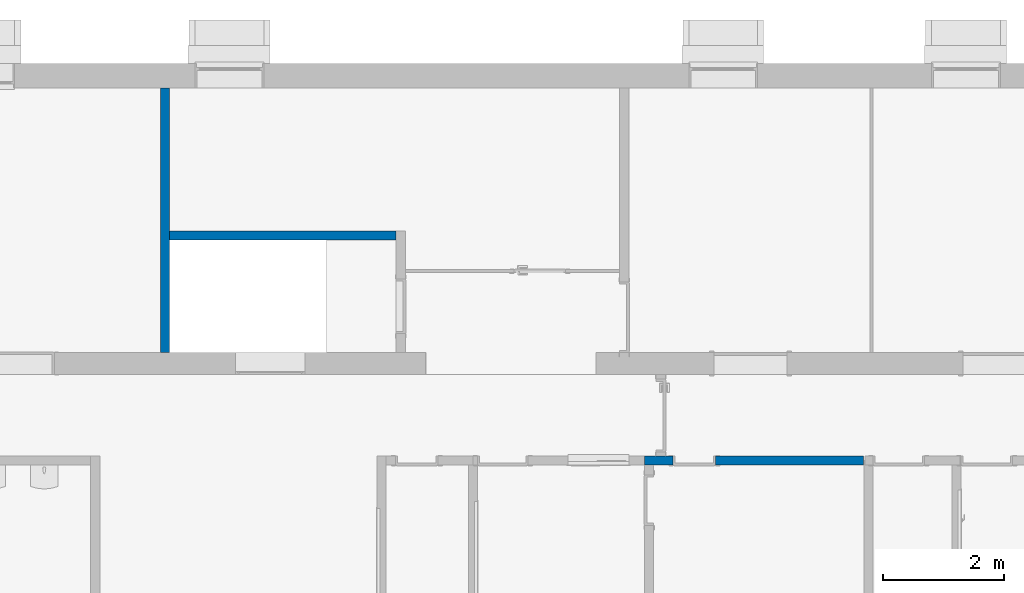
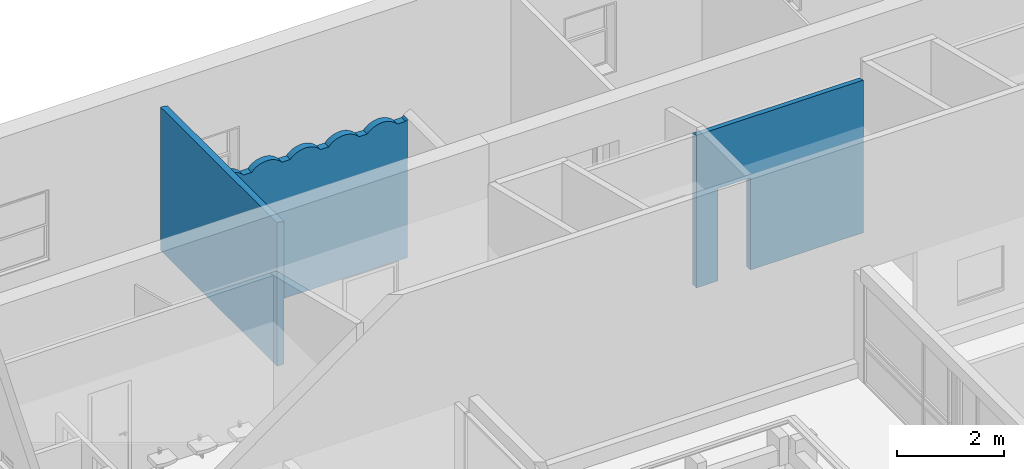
# One storey, part 141 of 153: 3 walls, 1 opening.
"""IFC4 building model written with IfcOpenShell, lengths in metres."""

import ifcopenshell
import ifcopenshell.guid

model = None  # the IFC model being written
_history = None  # IfcOwnerHistory: only IFC2X3 demands one
_inside = {}  # id of a spatial element -> (the spatial element, [elements in it])
_under = {}  # id of a project, library or spatial element -> (it, [spatial elements below it])
_declared = {}  # id of a project -> (the project, [libraries it declares])
_typed = {}  # id of a type object -> (the type object, [elements of that type])
_made_of = {}  # id of a material, layer set ... -> (it, [elements and type objects made of it])


def new_model(schema):
    """Start an empty IFC model of exactly this schema.

    Asked for "IFC4X3", IfcOpenShell would pick the latest addendum, in which some entities
    have other attributes; the version numbers below select the first issue.
    IFC2X3 requires an IfcOwnerHistory on every rooted entity: one is made here for all.
    """
    global model, _history
    if schema == "IFC4X3":
        model = ifcopenshell.file(schema_version=(4, 3, 0, 0))
    else:
        model = ifcopenshell.file(schema=schema)
    _inside.clear()
    _under.clear()
    _declared.clear()
    _typed.clear()
    _made_of.clear()
    _history = None
    if model.schema == "IFC2X3":
        org = make("IfcOrganization", Name="unknown")
        user = make(
            "IfcPersonAndOrganization",
            ThePerson=make("IfcPerson", FamilyName="unknown"),
            TheOrganization=org,
        )
        app = make(
            "IfcApplication",
            ApplicationDeveloper=org,
            Version="unknown",
            ApplicationFullName="unknown",
            ApplicationIdentifier="unknown",
        )
        _history = make(
            "IfcOwnerHistory",
            OwningUser=user,
            OwningApplication=app,
            ChangeAction="ADDED",
            CreationDate=0,
        )
    return model


def make(cls, **values):
    """One entity of the class cls with the attributes given. An attribute that is None is left unset."""
    return model.create_entity(
        cls, **{name: value for name, value in values.items() if value is not None}
    )


def entity(cls, *values):
    """Any entity or typed value of the class cls, its attributes in the order of the schema. None: left unset."""
    e = model.create_entity(cls)
    for i, value in enumerate(values):
        if value is not None:
            e[i] = value
    return e


def rooted(cls, **values):
    """An entity with a GlobalId (a new one), such as an element, a storey or a relation."""
    return make(cls, GlobalId=ifcopenshell.guid.new(), OwnerHistory=_history, **values)


def si_unit(unit_type, name, prefix=None):
    """IfcSIUnit, for example si_unit("LENGTHUNIT", "METRE", prefix="MILLI")."""
    return make("IfcSIUnit", UnitType=unit_type, Prefix=prefix, Name=name)


def converted_unit(unit_type, name, factor, base, dimensions=None, offset=None):
    """IfcConversionBasedUnit, such as the inch: factor (a typed value) times the base unit."""
    return make(
        "IfcConversionBasedUnit"
        if offset is None
        else "IfcConversionBasedUnitWithOffset",
        ConversionOffset=offset,
        Dimensions=None
        if dimensions is None
        else entity("IfcDimensionalExponents", *dimensions),
        UnitType=unit_type,
        Name=name,
        ConversionFactor=make(
            "IfcMeasureWithUnit", ValueComponent=factor, UnitComponent=base
        ),
    )


def derived_unit(unit_type, elements):
    """IfcDerivedUnit: a product of units, each with its exponent."""
    return make(
        "IfcDerivedUnit",
        Elements=[
            make("IfcDerivedUnitElement", Unit=unit, Exponent=power)
            for unit, power in elements
        ],
        UnitType=unit_type,
    )


def assignment(units):
    """IfcUnitAssignment: the units of a project."""
    return None if units is None else make("IfcUnitAssignment", Units=units)


def point(xyz):
    """IfcCartesianPoint."""
    return None if xyz is None else make("IfcCartesianPoint", Coordinates=xyz)


def direction(xyz):
    """IfcDirection."""
    return None if xyz is None else make("IfcDirection", DirectionRatios=xyz)


def frame(location, z_axis=None, x_axis=None):
    """IfcAxis2Placement3D, a coordinate frame: its origin and axes. An axis left out is left unset."""
    return make(
        "IfcAxis2Placement3D",
        Location=point(location),
        Axis=direction(z_axis),
        RefDirection=direction(x_axis),
    )


def origin():
    """The frame at (0, 0, 0) with its axes left unset."""
    return frame((0.0, 0.0, 0.0))


def place(relative_to, where):
    """IfcLocalPlacement: puts the frame where relative to a parent placement (None: the world)."""
    return make(
        "IfcLocalPlacement", PlacementRelTo=relative_to, RelativePlacement=where
    )


def context(
    kind, dimensions, precision=None, world=None, true_north=None, identifier=None
):
    """IfcGeometricRepresentationContext, for example the 3D "Model" context."""
    return make(
        "IfcGeometricRepresentationContext",
        ContextIdentifier=identifier,
        ContextType=kind,
        CoordinateSpaceDimension=dimensions,
        Precision=precision,
        WorldCoordinateSystem=world,
        TrueNorth=true_north,
    )


def subcontext(parent, identifier, kind, view, scale=None):
    """IfcGeometricRepresentationSubContext, for example "Body" below "Model"."""
    return make(
        "IfcGeometricRepresentationSubContext",
        ContextIdentifier=identifier,
        ContextType=kind,
        ParentContext=parent,
        TargetScale=scale,
        TargetView=view,
    )


def project(units=None, contexts=None):
    """IfcProject with its units and contexts."""
    return rooted(
        "IfcProject",
        Name="project",
        RepresentationContexts=contexts,
        UnitsInContext=assignment(units),
    )


def spatial(cls, under=None, at=None, **own):
    """A site, building, storey or space (cls), placed at a placement, below another one or the project."""
    s = rooted(cls, ObjectPlacement=at, **own)
    if under is not None:
        _under.setdefault(under.id(), (under, []))[1].append(s)
    return s


def point_list(points):
    """IfcCartesianPointList2D or 3D."""
    cls = (
        "IfcCartesianPointList2D" if len(points[0]) == 2 else "IfcCartesianPointList3D"
    )
    return make(cls, CoordList=points)


def indexed_curve(points, segments=None, self_intersect=None):
    """IfcIndexedPolyCurve: lines and arcs through numbered points (the first is 1)."""
    return make(
        "IfcIndexedPolyCurve",
        Points=point_list(points),
        Segments=segments,
        SelfIntersect=self_intersect,
    )


def outline(outer, holes=None, kind="AREA"):
    """IfcArbitraryClosedProfileDef: a profile drawn as a closed curve; with holes, ...WithVoids."""
    if holes is None:
        return make("IfcArbitraryClosedProfileDef", ProfileType=kind, OuterCurve=outer)
    return make(
        "IfcArbitraryProfileDefWithVoids",
        ProfileType=kind,
        OuterCurve=outer,
        InnerCurves=holes,
    )


def extrude(swept, where, along, depth):
    """IfcExtrudedAreaSolid: the profile swept, set in the frame where, extruded along a direction by depth."""
    return make(
        "IfcExtrudedAreaSolid",
        SweptArea=swept,
        Position=where,
        ExtrudedDirection=direction(along),
        Depth=depth,
    )


def polygons(points, faces, closed=None, point_numbers=None):
    """IfcPolygonalFaceSet: a face is its outer loop, then its inner loops; points numbered from 1."""
    made = []
    for loops in faces:
        if len(loops) == 1:
            made.append(make("IfcIndexedPolygonalFace", CoordIndex=loops[0]))
        else:
            made.append(
                make(
                    "IfcIndexedPolygonalFaceWithVoids",
                    CoordIndex=loops[0],
                    InnerCoordIndices=loops[1:],
                )
            )
    return make(
        "IfcPolygonalFaceSet",
        Coordinates=point_list(points),
        Closed=closed,
        Faces=made,
        PnIndex=point_numbers,
    )


def shape(context_of_items, identifier, shape_type, items):
    """IfcShapeRepresentation: the items that make up one representation, for example the "Body"."""
    return make(
        "IfcShapeRepresentation",
        ContextOfItems=context_of_items,
        RepresentationIdentifier=identifier,
        RepresentationType=shape_type,
        Items=items,
    )


def material(Name=None, Category=None):
    """IfcMaterial."""
    return make("IfcMaterial", Name=Name, Category=Category)


def made_of(thing, what):
    """Note that an element or type object is made of a material, layer set ...; save() writes the relation."""
    if what is not None:
        _made_of.setdefault(what.id(), (what, []))[1].append(thing)
    return thing


def type_object(cls, material=None, **own):
    """A type object (cls), such as IfcWallType, which elements share."""
    return made_of(rooted(cls, **own), material)


def element(
    cls,
    number,
    at=None,
    inside=None,
    cuts=None,
    type_object=None,
    material=None,
    context=None,
    identifier="Body",
    shape_type=None,
    held_by="IfcProductDefinitionShape",
    body=None,
    shapes=None,
    **own,
):
    """One element of the class cls, such as IfcWall. Its Tag is "e" and its number.

    at: its placement. inside: the storey or other place that contains it. cuts: it is an
    opening in that element (IfcRelVoidsElement). A single representation is given by context,
    identifier, shape_type and body (its items); several are given by shapes. held_by: the class
    of the entity that holds the representations. save() writes the other relations.
    """
    e = rooted(cls, Tag="e%d" % number, ObjectPlacement=at, **own)
    if body is not None:
        shapes = [shape(context, identifier, shape_type, body)]
    if shapes is not None:
        e.Representation = make(held_by, Representations=shapes)
    if inside is not None:
        _inside.setdefault(inside.id(), (inside, []))[1].append(e)
    if cuts is not None:
        rooted(
            "IfcRelVoidsElement", RelatingBuildingElement=cuts, RelatedOpeningElement=e
        )
    if type_object is not None:
        _typed.setdefault(type_object.id(), (type_object, []))[1].append(e)
    return made_of(e, material)


def aggregate(whole, parts):
    """IfcRelAggregates: a whole, such as a stair, and the parts it consists of."""
    return rooted("IfcRelAggregates", RelatingObject=whole, RelatedObjects=parts)


def save(model, path):
    """Write the relations noted so far, then the file.

    IfcRelAggregates (storeys below a building ...), IfcRelContainedInSpatialStructure (elements
    in a storey), IfcRelDefinesByType, IfcRelAssociatesMaterial and IfcRelDeclares: one each for
    every whole, place, type object, material and project.
    """
    for whole, parts in _under.values():
        aggregate(whole, parts)
    for where, things in _inside.values():
        rooted(
            "IfcRelContainedInSpatialStructure",
            RelatedElements=things,
            RelatingStructure=where,
        )
    for kind, things in _typed.values():
        rooted("IfcRelDefinesByType", RelatedObjects=things, RelatingType=kind)
    for what, things in _made_of.values():
        rooted("IfcRelAssociatesMaterial", RelatedObjects=things, RelatingMaterial=what)
    for by, libraries in _declared.values():
        rooted("IfcRelDeclares", RelatingContext=by, RelatedDefinitions=libraries)
    model.write(path)


model = new_model("IFC4")

# Units and contexts
model_context = context("Model", 3, precision=1e-05, world=origin(), true_north=direction((6.123031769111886e-17, 1.0)))
body_context = subcontext(model_context, "Body", "Model", "MODEL_VIEW")
ifc_project = project(units=[si_unit("LENGTHUNIT", "METRE"), si_unit("AREAUNIT", "SQUARE_METRE"), si_unit("VOLUMEUNIT", "CUBIC_METRE"), converted_unit("PLANEANGLEUNIT", "DEGREE", entity("IfcRatioMeasure", 0.017453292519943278), si_unit("PLANEANGLEUNIT", "RADIAN"), dimensions=[0, 0, 0, 0, 0, 0, 0]), si_unit("MASSUNIT", "GRAM", prefix="KILO"), derived_unit("MASSDENSITYUNIT", [(si_unit("MASSUNIT", "GRAM", prefix="KILO"), 1), (si_unit("LENGTHUNIT", "METRE"), -3)]), derived_unit("MOMENTOFINERTIAUNIT", [(si_unit("LENGTHUNIT", "METRE"), 4)]), si_unit("TIMEUNIT", "SECOND"), si_unit("FREQUENCYUNIT", "HERTZ"), si_unit("THERMODYNAMICTEMPERATUREUNIT", "DEGREE_CELSIUS"), derived_unit("THERMALTRANSMITTANCEUNIT", [(si_unit("MASSUNIT", "GRAM", prefix="KILO"), 1), (si_unit("THERMODYNAMICTEMPERATUREUNIT", "KELVIN"), -1), (si_unit("TIMEUNIT", "SECOND"), -3)]), derived_unit("VOLUMETRICFLOWRATEUNIT", [(si_unit("LENGTHUNIT", "METRE"), 3), (si_unit("TIMEUNIT", "SECOND"), -1)]), derived_unit("MASSFLOWRATEUNIT", [(si_unit("MASSUNIT", "GRAM", prefix="KILO"), 1), (si_unit("TIMEUNIT", "SECOND"), -1)]), derived_unit("ROTATIONALFREQUENCYUNIT", [(si_unit("TIMEUNIT", "SECOND"), -1)]), si_unit("ELECTRICCURRENTUNIT", "AMPERE"), si_unit("ELECTRICVOLTAGEUNIT", "VOLT"), si_unit("POWERUNIT", "WATT"), si_unit("FORCEUNIT", "NEWTON", prefix="KILO"), si_unit("ILLUMINANCEUNIT", "LUX"), si_unit("LUMINOUSFLUXUNIT", "LUMEN"), si_unit("LUMINOUSINTENSITYUNIT", "CANDELA"), derived_unit("USERDEFINED", [(si_unit("MASSUNIT", "GRAM", prefix="KILO"), -1), (si_unit("LENGTHUNIT", "METRE"), -2), (si_unit("TIMEUNIT", "SECOND"), 3), (si_unit("LUMINOUSFLUXUNIT", "LUMEN"), 1)]), derived_unit("SOUNDPOWERUNIT", [(si_unit("MASSUNIT", "GRAM", prefix="KILO"), 1), (si_unit("LENGTHUNIT", "METRE"), 2), (si_unit("TIMEUNIT", "SECOND"), -3)]), derived_unit("SOUNDPRESSUREUNIT", [(si_unit("MASSUNIT", "GRAM", prefix="KILO"), 1), (si_unit("LENGTHUNIT", "METRE"), -1), (si_unit("TIMEUNIT", "SECOND"), -2)]), derived_unit("LINEARVELOCITYUNIT", [(si_unit("LENGTHUNIT", "METRE"), 1), (si_unit("TIMEUNIT", "SECOND"), -1)]), si_unit("PRESSUREUNIT", "PASCAL"), derived_unit("USERDEFINED", [(si_unit("LENGTHUNIT", "METRE"), -2), (si_unit("MASSUNIT", "GRAM", prefix="KILO"), 1), (si_unit("TIMEUNIT", "SECOND"), -2)]), derived_unit("LINEARFORCEUNIT", [(si_unit("MASSUNIT", "GRAM", prefix="KILO"), 1), (si_unit("LENGTHUNIT", "METRE"), 1), (si_unit("TIMEUNIT", "SECOND"), -2), (si_unit("LENGTHUNIT", "METRE"), -1)]), derived_unit("PLANARFORCEUNIT", [(si_unit("MASSUNIT", "GRAM", prefix="KILO"), 1), (si_unit("LENGTHUNIT", "METRE"), 1), (si_unit("TIMEUNIT", "SECOND"), -2), (si_unit("LENGTHUNIT", "METRE"), -2)])], contexts=[model_context])

# Site, building, storey
site_placement = place(None, origin())
site = spatial("IfcSite", under=ifc_project, at=site_placement, Name="Superficie", CompositionType="ELEMENT")
building_placement = place(site_placement, origin())
building = spatial("IfcBuilding", under=site, at=building_placement, CompositionType="ELEMENT")
storey_placement = place(building_placement, frame((0.0, 0.0, 3.5999999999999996)))
storey = spatial("IfcBuildingStorey", under=building, at=storey_placement, Name="Nivel 1", CompositionType="ELEMENT", Elevation=3.5999999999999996)

# Walls
ifc_material = material(Name="Muro por defecto", Category="Varios")
wall_type = type_object("IfcWallType", Name="Muro básico:Por defecto - 15 cm 2", PredefinedType="STANDARD")
wall_1_placement = place(storey_placement, frame((-6.373998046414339, 10.730829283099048, 0.4000000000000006), z_axis=(0.0, 0.0, 1.0), x_axis=(0.0, 1.0, 0.0)))
element("IfcWall", 1, at=wall_1_placement, inside=storey, type_object=wall_type, material=ifc_material, Name="Muro básico:Por defecto - 15 cm 2", ObjectType="Muro básico:Por defecto - 15 cm 2", PredefinedType="NOTDEFINED", context=body_context, shape_type="Tessellation", body=[
    polygons([(0.0, -0.07499999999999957, -5.414335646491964e-16), (1.849599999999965, -0.0749999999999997, -5.414335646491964e-16), (4.3549999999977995, -0.07499999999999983, -5.414335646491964e-16), (4.354999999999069, -0.07499999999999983, 3.2491351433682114), (1.9995999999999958, -0.07499999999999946, 3.2491351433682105), (1.8495999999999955, -0.0749999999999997, 3.2491351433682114), (0.0, -0.07499999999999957, 3.249135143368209), (1.5160139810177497e-14, 0.0749999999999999, -5.414335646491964e-16), (4.331468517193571e-15, 0.0749999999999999, 3.2703090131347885), (4.354999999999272, 0.07499999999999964, 3.2703090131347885), (4.354999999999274, 0.07499999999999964, -5.414335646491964e-16), (0.0, -0.025950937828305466, 3.2620888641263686), (2.1657342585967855e-15, 0.024281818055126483, 3.2691796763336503), (4.354999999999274, -0.025950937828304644, 3.2620888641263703), (4.354999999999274, 0.02428181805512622, 3.2691796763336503), (2.177484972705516, 0.07499999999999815, 3.2703090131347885), (1.448571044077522, 0.0749999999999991, 3.2703090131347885), (1.9246000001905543, 0.0028090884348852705, 3.266887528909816), (2.9064136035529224, -0.07500000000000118, 3.2491351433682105), (3.266242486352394, 0.0749999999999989, 3.2703090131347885), (0.7242893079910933, -0.07500000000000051, 3.249135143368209), (0.724285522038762, 0.07499999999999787, 3.2703090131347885), (3.6307068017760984, -0.07500000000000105, 3.249135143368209), (3.6306844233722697, 0.07499999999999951, 3.2703090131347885), (3.448478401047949, -0.0009391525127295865, 3.2663752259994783), (1.2869446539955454, -0.07500000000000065, 3.2491351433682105), (2.721863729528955, 0.07499999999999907, 3.2703090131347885), (1.005619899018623, -0.0009391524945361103, 3.2663752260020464), (0.48659493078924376, -0.0009391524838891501, 3.266375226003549), (2.4530068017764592, -0.07500000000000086, 3.249135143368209), (2.6797102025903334, -0.004123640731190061, 3.2659135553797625)], [[[2, 3, 4, 23, 19, 30, 5, 6, 26, 21, 7, 1]], [[10, 11, 8, 9, 22, 17, 16, 27, 20, 24]], [[9, 8, 1, 7, 12, 13]], [[18, 30, 31]], [[9, 13, 29]], [[6, 5, 30, 18, 26]], [[18, 28, 26]], [[13, 12, 29]], [[24, 25, 15]], [[19, 31, 30]], [[23, 25, 19]], [[21, 26, 28, 29, 7]], [[9, 29, 28, 17, 22]], [[25, 24, 20]], [[4, 14, 23]], [[14, 15, 25]], [[16, 17, 18]], [[15, 10, 24]], [[14, 25, 23]], [[28, 18, 17]], [[31, 20, 27, 16]], [[31, 16, 18]], [[29, 12, 7]], [[25, 20, 31]], [[25, 31, 19]], [[15, 14, 4, 3, 11, 10]], [[2, 1, 8, 11, 3]]], closed=True),
])
wall_2_placement = place(storey_placement, frame((-2.5689980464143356, 12.655429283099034, 0.40052660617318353), z_axis=(0.0, 0.0, 1.0), x_axis=(-1.0, 0.0, 0.0)))
element("IfcWall", 2, at=wall_2_placement, inside=storey, type_object=wall_type, material=ifc_material, Name="Muro básico:Por defecto - 15 cm 2", ObjectType="Muro básico:Por defecto - 15 cm 2", PredefinedType="NOTDEFINED", context=body_context, shape_type="Tessellation", body=[
    polygons([(1.8924520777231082e-15, -0.07500000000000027, 0.0), (3.730000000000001, -0.07500000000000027, 0.0), (3.729999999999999, -0.07500000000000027, 3.248608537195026), (3.6862270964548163, -0.07500000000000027, 3.2315394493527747), (3.644602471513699, -0.07500000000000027, 3.2098152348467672), (3.6055892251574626, -0.07500000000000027, 3.1836824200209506), (3.5696590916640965, -0.07500000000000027, 3.153456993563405), (3.5372162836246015, -0.07500000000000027, 3.119473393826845), (3.3611895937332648, -0.07500000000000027, 3.119473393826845), (3.3134548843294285, -0.07500000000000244, 3.1671451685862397), (3.2588555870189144, -0.07500000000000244, 3.206769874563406), (3.198733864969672, -0.07500000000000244, 3.2373734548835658), (3.1345676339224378, -0.07500000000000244, 3.2582036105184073), (3.067934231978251, -0.07500000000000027, 3.2687482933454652), (3.0004716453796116, -0.07500000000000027, 3.2687482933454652), (2.933838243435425, -0.07500000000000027, 3.2582036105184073), (2.86967201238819, -0.07500000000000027, 3.2373734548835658), (2.8095502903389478, -0.07500000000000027, 3.206769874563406), (2.7549509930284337, -0.07500000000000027, 3.167145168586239), (2.7072162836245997, -0.07500000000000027, 3.1194733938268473), (2.531189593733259, -0.07500000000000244, 3.1194733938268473), (2.483454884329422, -0.07500000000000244, 3.167145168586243), (2.4288555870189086, -0.07500000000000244, 3.2067698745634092), (2.3687338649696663, -0.07500000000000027, 3.237373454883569), (2.3045676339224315, -0.07500000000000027, 3.2582036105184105), (2.2379342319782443, -0.07500000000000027, 3.2687482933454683), (2.1704716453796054, -0.07500000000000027, 3.2687482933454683), (2.103838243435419, -0.07500000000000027, 3.2582036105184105), (2.039672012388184, -0.07500000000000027, 3.237373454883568), (1.979550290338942, -0.07500000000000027, 3.2067698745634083), (1.9249509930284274, -0.07500000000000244, 3.167145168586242), (1.8772162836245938, -0.07500000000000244, 3.119473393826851), (1.7011895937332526, -0.07500000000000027, 3.119473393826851), (1.6534548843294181, -0.07500000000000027, 3.167145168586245), (1.5988555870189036, -0.07500000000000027, 3.2067698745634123), (1.5387338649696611, -0.07500000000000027, 3.237373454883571), (1.4745676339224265, -0.07500000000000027, 3.2582036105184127), (1.4079342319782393, -0.07500000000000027, 3.2687482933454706), (1.3404716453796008, -0.07500000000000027, 3.2687482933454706), (1.2738382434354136, -0.07500000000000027, 3.2582036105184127), (1.209672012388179, -0.07500000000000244, 3.23737345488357), (1.1495502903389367, -0.07500000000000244, 3.20676987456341), (1.0949509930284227, -0.07500000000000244, 3.167145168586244), (1.047216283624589, -0.07500000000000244, 3.1194733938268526), (0.8711895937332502, -0.07500000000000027, 3.1194733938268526), (0.8234548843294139, -0.07500000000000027, 3.1671451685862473), (0.7688555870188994, -0.07500000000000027, 3.2067698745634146), (0.7087338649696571, -0.07500000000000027, 3.2373734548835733), (0.6445676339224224, -0.07500000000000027, 3.258203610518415), (0.5779342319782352, -0.07500000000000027, 3.268748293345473), (0.5104716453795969, -0.07500000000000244, 3.268748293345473), (0.4438382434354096, -0.07500000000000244, 3.258203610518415), (0.379672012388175, -0.07500000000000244, 3.2373734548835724), (0.3195502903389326, -0.07500000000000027, 3.2067698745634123), (0.2649509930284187, -0.07500000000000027, 3.1671451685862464), (0.2172162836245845, -0.07500000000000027, 3.119473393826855), (0.04118959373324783, -0.07500000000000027, 3.119473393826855), (0.02131271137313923, -0.07500000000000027, 3.1411646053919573), (2.681513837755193e-16, -0.07500000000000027, 3.1614468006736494), (1.9650153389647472e-15, 0.07500000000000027, 0.0), (-2.0071891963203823e-16, 0.07500000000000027, 3.1614468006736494), (0.021312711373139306, 0.07500000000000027, 3.1411646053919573), (0.041189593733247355, 0.07500000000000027, 3.119473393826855), (0.21721628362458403, 0.07500000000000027, 3.1194733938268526), (0.2607021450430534, 0.07500000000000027, 3.1634724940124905), (0.3100395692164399, 0.07500000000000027, 3.200775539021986), (0.36421451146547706, 0.07499999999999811, 3.230618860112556), (0.4221057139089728, 0.07499999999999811, 3.252385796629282), (0.48251761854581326, 0.07499999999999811, 3.265627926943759), (0.5442029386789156, 0.07499999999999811, 3.2700724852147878), (0.6058882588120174, 0.07500000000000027, 3.2656279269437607), (0.6663001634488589, 0.07500000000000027, 3.252385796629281), (0.7241913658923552, 0.07500000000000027, 3.2306188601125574), (0.7783663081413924, 0.07500000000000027, 3.200775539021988), (0.8277037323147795, 0.07500000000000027, 3.1634724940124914), (0.8711895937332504, 0.07500000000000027, 3.1194733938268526), (1.0472162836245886, 0.07499999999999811, 3.119473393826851), (1.0907021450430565, 0.07499999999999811, 3.163472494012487), (1.140039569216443, 0.07499999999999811, 3.200775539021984), (1.19421451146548, 0.07499999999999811, 3.230618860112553), (1.2521057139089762, 0.07500000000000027, 3.252385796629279), (1.3125176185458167, 0.07500000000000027, 3.2656279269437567), (1.3742029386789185, 0.07500000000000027, 3.2700724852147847), (1.4358882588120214, 0.07500000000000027, 3.265627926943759), (1.4963001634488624, 0.07500000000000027, 3.252385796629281), (1.5541913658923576, 0.07500000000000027, 3.230618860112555), (1.6083663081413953, 0.07500000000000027, 3.200775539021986), (1.6577037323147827, 0.07500000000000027, 3.163472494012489), (1.7011895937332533, 0.07500000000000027, 3.119473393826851), (1.8772162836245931, 0.07499999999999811, 3.1194733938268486), (1.9249509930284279, 0.07499999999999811, 3.167145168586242), (1.9795502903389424, 0.07500000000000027, 3.2067698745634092), (2.0396720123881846, 0.07500000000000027, 3.237373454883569), (2.1038382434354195, 0.07500000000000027, 3.2582036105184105), (2.1704716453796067, 0.07500000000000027, 3.2687482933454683), (2.237934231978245, 0.07500000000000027, 3.2687482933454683), (2.3045676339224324, 0.07500000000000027, 3.2582036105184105), (2.3687338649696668, 0.07500000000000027, 3.237373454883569), (2.428855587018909, 0.07499999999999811, 3.2067698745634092), (2.4834548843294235, 0.07499999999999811, 3.167145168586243), (2.53118959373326, 0.07499999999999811, 3.1194733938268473), (2.7072162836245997, 0.07500000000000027, 3.1194733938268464), (2.754950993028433, 0.07500000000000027, 3.167145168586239), (2.809550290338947, 0.07500000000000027, 3.206769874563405), (2.869672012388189, 0.07500000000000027, 3.2373734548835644), (2.9338382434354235, 0.07500000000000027, 3.2582036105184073), (3.0004716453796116, 0.07500000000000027, 3.2687482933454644), (3.06793423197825, 0.07500000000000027, 3.2687482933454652), (3.1345676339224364, 0.07499999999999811, 3.2582036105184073), (3.198733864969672, 0.07499999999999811, 3.2373734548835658), (3.2588555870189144, 0.07499999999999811, 3.206769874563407), (3.3134548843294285, 0.07499999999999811, 3.1671451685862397), (3.3611895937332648, 0.07500000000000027, 3.119473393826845), (3.5372162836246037, 0.07500000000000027, 3.119473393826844), (3.578318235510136, 0.07500000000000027, 3.1613689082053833), (3.62473909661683, 0.07500000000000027, 3.1972814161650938), (3.675615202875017, 0.07500000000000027, 3.2265427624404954), (3.729999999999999, 0.07500000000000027, 3.248608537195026), (3.730000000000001, 0.07500000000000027, 0.0)], [[[1, 2, 3, 4, 5, 6, 7, 8, 9, 10, 11, 12, 13, 14, 15, 16, 17, 18, 19, 20, 21, 22, 23, 24, 25, 26, 27, 28, 29, 30, 31, 32, 33, 34, 35, 36, 37, 38, 39, 40, 41, 42, 43, 44, 45, 46, 47, 48, 49, 50, 51, 52, 53, 54, 55, 56, 57, 58, 59]], [[119, 60, 61, 62, 63, 64, 65, 66, 67, 68, 69, 70, 71, 72, 73, 74, 75, 76, 77, 78, 79, 80, 81, 82, 83, 84, 85, 86, 87, 88, 89, 90, 91, 92, 93, 94, 95, 96, 97, 98, 99, 100, 101, 102, 103, 104, 105, 106, 107, 108, 109, 110, 111, 112, 113, 114, 115, 116, 117, 118]], [[2, 1, 60, 119]], [[60, 1, 59, 61]], [[2, 119, 118, 3]], [[59, 58, 62, 61]], [[62, 58, 57, 63]], [[63, 57, 56, 64]], [[77, 76, 45, 44]], [[89, 33, 32, 90]], [[27, 26, 96, 95]], [[102, 101, 21, 20]], [[15, 14, 108, 107]], [[114, 113, 9, 8]], [[65, 56, 55]], [[78, 44, 43]], [[54, 66, 55]], [[42, 79, 43]], [[68, 53, 52]], [[81, 41, 40]], [[67, 54, 53]], [[80, 42, 41]], [[69, 52, 51]], [[82, 40, 39]], [[65, 64, 56]], [[78, 77, 44]], [[66, 65, 55]], [[79, 78, 43]], [[68, 67, 53]], [[81, 80, 41]], [[69, 68, 52]], [[82, 81, 40]], [[66, 54, 67]], [[79, 42, 80]], [[51, 70, 69]], [[39, 83, 82]], [[49, 48, 72]], [[37, 36, 85]], [[50, 49, 71]], [[38, 37, 84]], [[46, 45, 75]], [[34, 33, 88]], [[47, 46, 74]], [[35, 34, 87]], [[48, 47, 73]], [[36, 35, 86]], [[49, 72, 71]], [[37, 85, 84]], [[71, 70, 50]], [[84, 83, 38]], [[72, 48, 73]], [[85, 36, 86]], [[47, 74, 73]], [[35, 87, 86]], [[75, 74, 46]], [[88, 87, 34]], [[75, 45, 76]], [[88, 33, 89]], [[50, 70, 51]], [[38, 83, 39]], [[91, 90, 32, 31]], [[103, 102, 20, 19]], [[30, 92, 91, 31]], [[18, 104, 103, 19]], [[93, 29, 28, 94]], [[105, 17, 16, 106]], [[92, 30, 29, 93]], [[104, 18, 17, 105]], [[94, 28, 27, 95]], [[106, 16, 15, 107]], [[25, 24, 98, 97]], [[13, 12, 110, 109]], [[26, 25, 97, 96]], [[14, 13, 109, 108]], [[22, 21, 101, 100]], [[10, 9, 113, 112]], [[23, 22, 100, 99]], [[11, 10, 112, 111]], [[24, 23, 99, 98]], [[12, 11, 111, 110]], [[8, 7, 114]], [[7, 115, 114]], [[115, 7, 6]], [[115, 6, 116]], [[4, 3, 118]], [[5, 4, 117]], [[5, 117, 116]], [[117, 4, 118]], [[5, 116, 6]]], closed=True),
])

# Wall, opening
wall_3_placement = place(storey_placement, frame((5.123501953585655, 8.950829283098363, 0.5199999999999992), z_axis=(0.0, 0.0, 1.0), x_axis=(-1.0, 0.0, 0.0)))
wall_3 = element("IfcWall", 3, at=wall_3_placement, inside=storey, type_object=wall_type, material=ifc_material, Name="Muro básico:Por defecto - 15 cm 2", ObjectType="Muro básico:Por defecto - 15 cm 2", PredefinedType="NOTDEFINED", context=body_context, shape_type="Tessellation", body=[
    polygons([(7.524117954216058e-16, -0.07499999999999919, 3.4429790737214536), (7.524117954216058e-16, -0.07499999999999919, 5.414335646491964e-16), (2.4345587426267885, -0.07499999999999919, 5.414335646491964e-16), (2.4345587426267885, -0.07499999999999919, 2.099999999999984), (3.1345587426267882, -0.07499999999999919, 2.099999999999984), (3.1345587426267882, -0.07499999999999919, 5.414335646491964e-16), (3.2624999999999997, -0.07499999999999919, 5.414335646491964e-16), (3.4124999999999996, -0.07499999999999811, 5.414335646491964e-16), (3.6024999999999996, -0.07499999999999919, 5.414335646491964e-16), (3.6024999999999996, -0.07499999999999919, 3.4429790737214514), (3.412499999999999, -0.07499999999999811, 3.4429790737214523), (3.2624999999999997, -0.07499999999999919, 3.4429790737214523), (2.360156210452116e-16, 0.07499999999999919, 5.414335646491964e-16), (2.360156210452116e-16, 0.07499999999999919, 3.4801691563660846), (3.6024999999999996, 0.07500000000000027, 3.4801691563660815), (3.6024999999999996, 0.07500000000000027, 5.414335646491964e-16), (3.4524999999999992, 0.07500000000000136, 5.414335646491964e-16), (3.134558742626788, 0.07500000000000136, 5.414335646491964e-16), (3.134558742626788, 0.07500000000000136, 2.099999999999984), (2.4345587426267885, 0.07500000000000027, 2.099999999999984), (2.4345587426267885, 0.07500000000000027, 5.414335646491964e-16)], [[[1, 2, 3, 4, 5, 6, 7, 8, 9, 10, 11, 12]], [[13, 14, 15, 16, 17, 18, 19, 20, 21]], [[2, 13, 21, 3]], [[2, 1, 14, 13]], [[10, 9, 16, 15]], [[20, 4, 3, 21]], [[4, 20, 19, 5]], [[5, 19, 18, 6]], [[1, 12, 11, 10, 15, 14]], [[16, 9, 8, 7, 6, 18, 17]]], closed=True),
])
opening_placement = place(wall_3_placement, frame((2.434558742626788, -0.07500000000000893, 0.0)))
element("IfcOpeningElement", 4, at=opening_placement, cuts=wall_3, Name="Puerta de 1 hoja:70 x 210 cm:1", PredefinedType="OPENING", context=body_context, shape_type="SweptSolid", body=[
    extrude(outline(indexed_curve([(0.0, -8.403988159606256e-31), (2.099999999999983, -8.403988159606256e-31), (2.099999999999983, 0.7000000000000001), (0.0, 0.7000000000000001), (0.0, -8.403988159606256e-31)], self_intersect=False)), frame((0.0, 0.0, 0.0), z_axis=(0.0, 1.0, 0.0), x_axis=(0.0, 0.0, 1.0)), (0.0, 0.0, 1.0), 0.14999999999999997),
])

save(model, "model.ifc")
